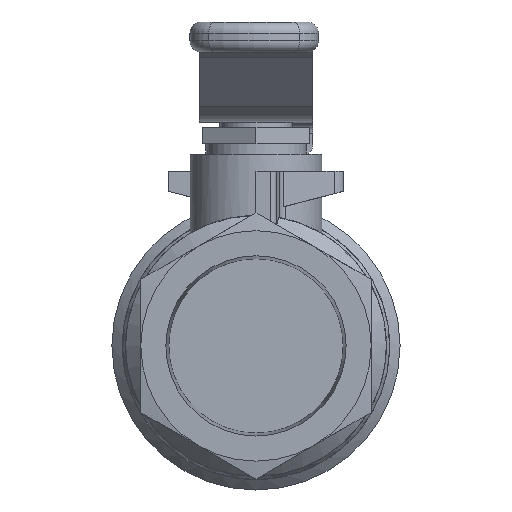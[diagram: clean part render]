
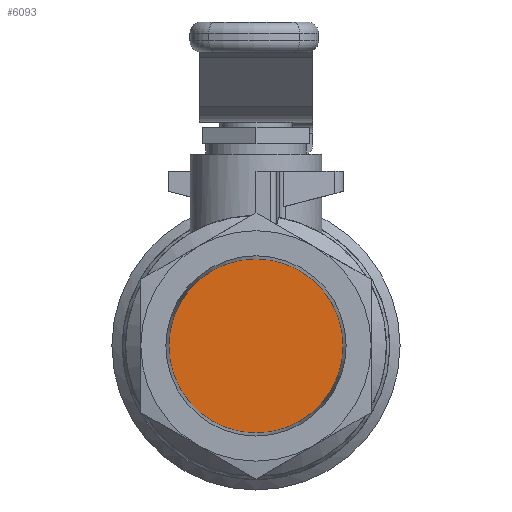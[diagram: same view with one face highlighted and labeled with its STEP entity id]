
A CAD part, left-side view. The second image highlights one B-rep face of the part: STEP entity #6093.
In plain terms, the highlighted free-form (B-spline) face has degree [1, 1] with [2, 2] control points.
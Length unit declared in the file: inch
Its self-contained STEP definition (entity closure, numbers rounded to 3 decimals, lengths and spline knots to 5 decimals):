
#6077=CARTESIAN_POINT('',(0.6609,0.59866,0.59866));
#6078=CARTESIAN_POINT('',(0.6609,-0.59866,0.59866));
#6079=CARTESIAN_POINT('',(0.6609,0.59866,-0.59866));
#6080=CARTESIAN_POINT('',(0.6609,-0.59866,-0.59866));
#6081=B_SPLINE_SURFACE_WITH_KNOTS('',1,1,((#6077,#6079),(#6078,#6080)),.UNSPECIFIED.,.F.,.F.,.U.,(2,2),(2,2),(0.0,1.19733),(0.0,1.19733),.UNSPECIFIED.);
#6082=CARTESIAN_POINT('',(0.6609,0.59866,0.0));
#6083=VERTEX_POINT('',#6082);
#6084=CARTESIAN_POINT('',(0.6609,0.0,0.0));
#6085=DIRECTION('',(1.0,0.0,0.0));
#6086=DIRECTION('',(0.0,1.0,0.0));
#6087=AXIS2_PLACEMENT_3D('',#6084,#6085,#6086);
#6088=CIRCLE('',#6087,0.59866);
#6089=EDGE_CURVE('',#6083,#6083,#6088,.T.);
#6090=ORIENTED_EDGE('',*,*,#6089,.F.);
#6091=EDGE_LOOP('',(#6090));
#6092=FACE_OUTER_BOUND('',#6091,.T.);
#6093=ADVANCED_FACE('',(#6092),#6081,.F.);
